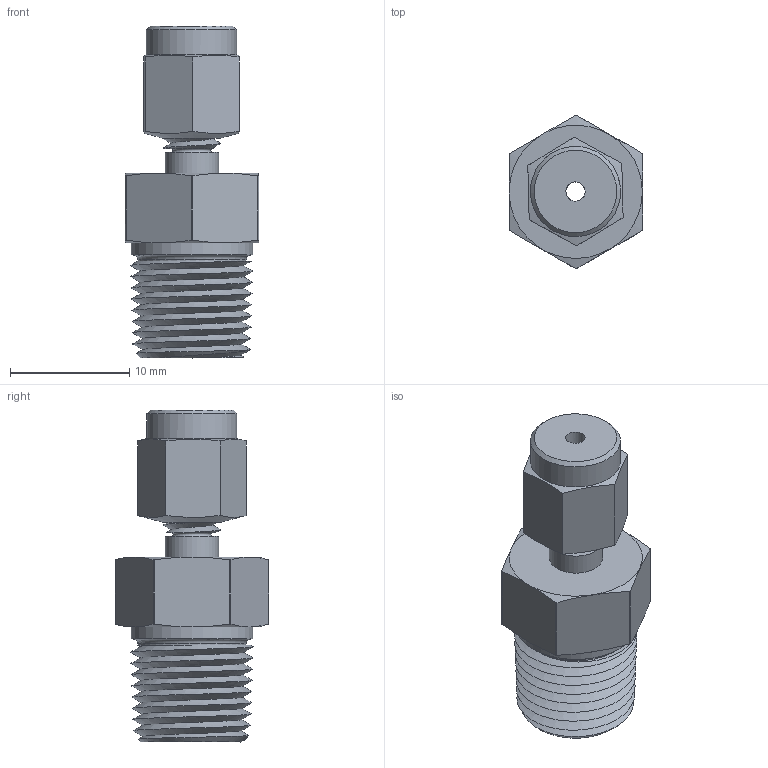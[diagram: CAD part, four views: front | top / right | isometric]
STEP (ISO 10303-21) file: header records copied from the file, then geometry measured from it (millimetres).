
FILE_DESCRIPTION(/* description */ (''),/* implementation_level */ '2;1');
FILE_NAME(/* name */ 'C:\Users\JN\Documents\CAD Drawings\The Sensor Connection\3D\CF\CF-0062-NPT\CF-0062-18-NPT.stp',/* time_stamp */ '2017-11-07T14:17:38-05:00',/* author */ ('JN'),/* organization */ (''),/* preprocessor_version */ 'ST-DEVELOPER v15.6',/* originating_system */ 'Autodesk Inventor 2015',/* authorisation */ '');
FILE_SCHEMA (('AUTOMOTIVE_DESIGN { 1 0 10303 214 3 1 1 }'));
Length unit declared in the file: inch
Products named in the file (4): CF-0062-18-NPT Threaded Body; CF-0062-18-NPT Cap; CF-0062-18-NPT Bottom Ferrule; CF-0062-18-NPT
Assembly tree (3 placements, depth 2):
  CF-0062-18-NPT
    CF-0062-18-NPT Threaded Body
    CF-0062-18-NPT Cap
    CF-0062-18-NPT Bottom Ferrule
Bounding box: 11.18 x 12.87 x 27.82 mm (x, y, z)
Volume: 1703.4 mm3; surface area: 1808.4 mm2
Topology: 4 solids, 4 shells, 71 faces, 180 edges, 119 vertices
Faces by surface type: plane 29, cylinder 17, cone 11, bspline 10, torus 4
Full cylindrical faces by diameter (mm): 1.626 x4, 3.493 x1, 3.556 x1, 4.47 x1, 5.436 x1, 7.556 x1, 9.112 x1, 10.16 x1
Entity records: 6535 total; most frequent: CARTESIAN_POINT 5001, ORIENTED_EDGE 302, DIRECTION 263, EDGE_CURVE 151, AXIS2_PLACEMENT_3D 118, VERTEX_POINT 109, EDGE_LOOP 101, FACE_OUTER_BOUND 71
